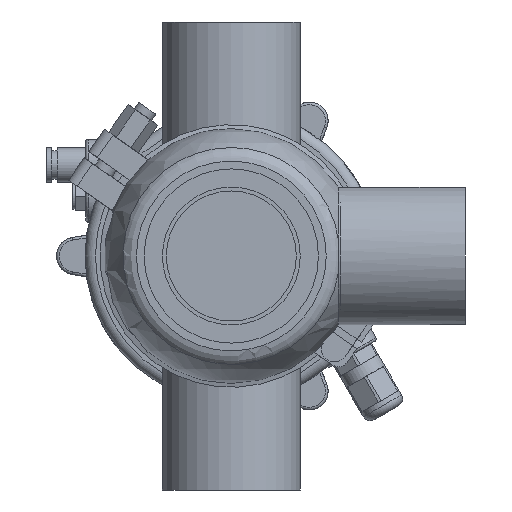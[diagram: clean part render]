
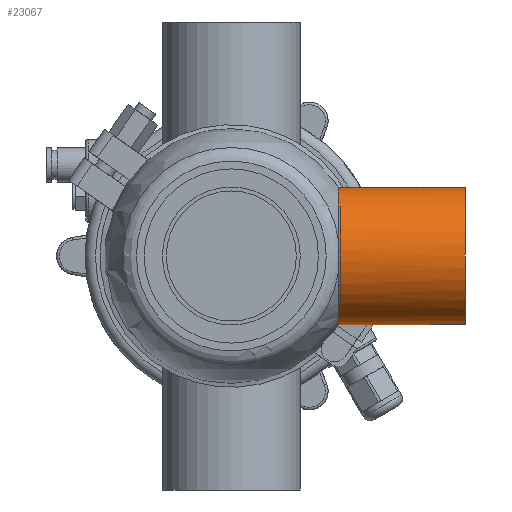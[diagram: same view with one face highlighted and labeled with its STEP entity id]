
A CAD part, front view. The second image highlights one B-rep face of the part: STEP entity #23067.
In plain terms, the highlighted cylindrical face has radius 26.5 mm (diameter 53 mm), a full revolution.
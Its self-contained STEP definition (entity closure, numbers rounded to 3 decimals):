
#1262 = CARTESIAN_POINT ( 'NONE',  ( 41.148, -26.5, -0.514 ) ) ;
#2504 = ORIENTED_EDGE ( 'NONE', *, *, #30691, .T. ) ;
#2633 = CARTESIAN_POINT ( 'NONE',  ( 90., 0., 26.5 ) ) ;
#2734 = CARTESIAN_POINT ( 'NONE',  ( 90., 0., 0. ) ) ;
#2972 = CYLINDRICAL_SURFACE ( 'NONE', #35368, 26.5 ) ;
#6076 = ORIENTED_EDGE ( 'NONE', *, *, #11232, .T. ) ;
#9415 = DIRECTION ( 'NONE',  ( -1., 0., 0. ) ) ;
#10834 = CARTESIAN_POINT ( 'NONE',  ( 41.196, -26.173, -4.288 ) ) ;
#10899 = CIRCLE ( 'NONE', #27763, 26.5 ) ;
#11027 = VERTEX_POINT ( 'NONE', #31758 ) ;
#11232 = EDGE_CURVE ( 'NONE', #46331, #46331, #31768, .T. ) ;
#14042 = CARTESIAN_POINT ( 'NONE',  ( 0., 0., 0. ) ) ;
#16343 = DIRECTION ( 'NONE',  ( 1., 0., 0. ) ) ;
#20183 = CARTESIAN_POINT ( 'NONE',  ( 41.151, -26.485, -1.052 ) ) ;
#20688 = EDGE_LOOP ( 'NONE', ( #2504, #60661 ) ) ;
#21905 = DIRECTION ( 'NONE',  ( 0., 0., 1. ) ) ;
#23067 = ADVANCED_FACE ( 'NONE', ( #26525, #45431 ), #2972, .T. ) ;
#24018 = VERTEX_POINT ( 'NONE', #57240 ) ;
#24771 = CARTESIAN_POINT ( 'NONE',  ( 41.216, -25.976, 5.353 ) ) ;
#25056 = B_SPLINE_CURVE_WITH_KNOTS ( 'NONE', 3,
 ( #54203, #24771, #44609, #30632, #43726, #1262, #20183, #57984, #29730, #10834, #30032, #48967 ),
 .UNSPECIFIED., .F., .F.,
 ( 4, 2, 2, 2, 2, 4 ),
 ( 0., 0.003, 0.006, 0.008, 0.01, 0.013 ),
 .UNSPECIFIED. ) ;
#26525 = FACE_OUTER_BOUND ( 'NONE', #20688, .T. ) ;
#26798 = AXIS2_PLACEMENT_3D ( 'NONE', #2734, #35891, #53764 ) ;
#27159 = DIRECTION ( 'NONE',  ( 0., 0., 1. ) ) ;
#27763 = AXIS2_PLACEMENT_3D ( 'NONE', #54159, #16343, #27159 ) ;
#29730 = CARTESIAN_POINT ( 'NONE',  ( 41.17, -26.37, -2.673 ) ) ;
#30032 = CARTESIAN_POINT ( 'NONE',  ( 41.216, -25.976, -5.353 ) ) ;
#30632 = CARTESIAN_POINT ( 'NONE',  ( 41.162, -26.433, 2.166 ) ) ;
#30691 = EDGE_CURVE ( 'NONE', #11027, #24018, #10899, .T. ) ;
#31758 = CARTESIAN_POINT ( 'NONE',  ( 41.216, -25.714, -6.407 ) ) ;
#31768 = CIRCLE ( 'NONE', #26798, 26.5 ) ;
#35368 = AXIS2_PLACEMENT_3D ( 'NONE', #14042, #9415, #21905 ) ;
#35891 = DIRECTION ( 'NONE',  ( -1., 0., 0. ) ) ;
#36719 = EDGE_LOOP ( 'NONE', ( #6076 ) ) ;
#43726 = CARTESIAN_POINT ( 'NONE',  ( 41.148, -26.499, 1.097 ) ) ;
#44609 = CARTESIAN_POINT ( 'NONE',  ( 41.196, -26.172, 4.294 ) ) ;
#45431 = FACE_OUTER_BOUND ( 'NONE', #36719, .T. ) ;
#45876 = EDGE_CURVE ( 'NONE', #24018, #11027, #25056, .T. ) ;
#46331 = VERTEX_POINT ( 'NONE', #2633 ) ;
#48967 = CARTESIAN_POINT ( 'NONE',  ( 41.216, -25.714, -6.407 ) ) ;
#53764 = DIRECTION ( 'NONE',  ( 0., 0., 1. ) ) ;
#54159 = CARTESIAN_POINT ( 'NONE',  ( 41.216, 0., 0. ) ) ;
#54203 = CARTESIAN_POINT ( 'NONE',  ( 41.216, -25.714, 6.407 ) ) ;
#57240 = CARTESIAN_POINT ( 'NONE',  ( 41.216, -25.714, 6.407 ) ) ;
#57984 = CARTESIAN_POINT ( 'NONE',  ( 41.162, -26.42, -2.131 ) ) ;
#60661 = ORIENTED_EDGE ( 'NONE', *, *, #45876, .T. ) ;
